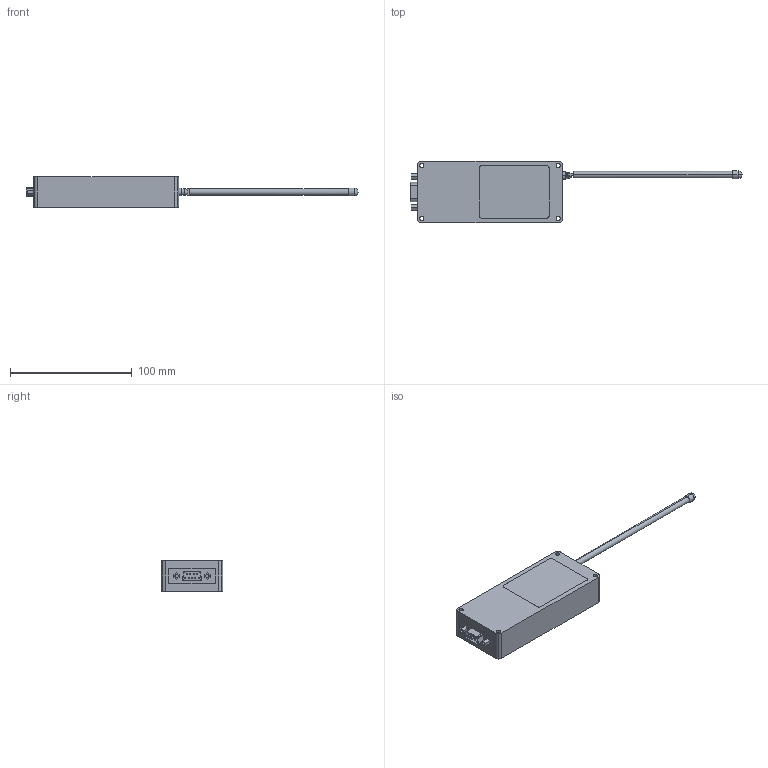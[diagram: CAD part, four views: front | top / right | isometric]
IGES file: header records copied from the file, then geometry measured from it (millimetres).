
Global section: file name: C:\Documents and Settings\Administrator\Desktop\Transfer Temp\oimodem.igs; native system: AutoDesk Inventor R2.0 ; preprocessor: AutoDesk Inventor Iges Exporter R2.0; author: No Author specified; organization: No Organization specified; date: 20020113.131830; units: inch
Bounding box: 273.16 x 50.8 x 25.4 mm (x, y, z)
Surface area: 31544.3 mm2 (no closed solid volume)
Topology: 0 solids, 0 shells, 178 faces, 872 edges, 870 vertices
Faces by surface type: revolution 100, bspline 78
